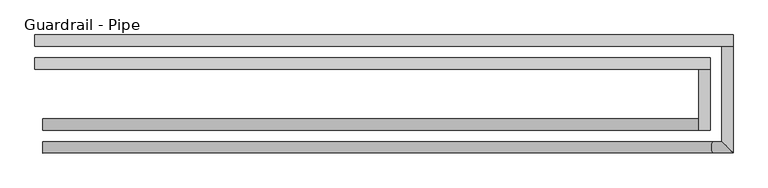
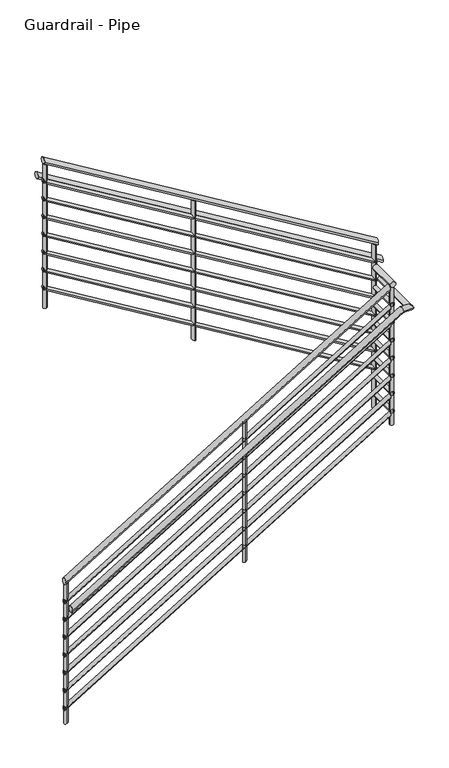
"""IFC4 building model written with IfcOpenShell, lengths in millimetres: railing geometry, Guardrail - Pipe."""

from ifc_helpers import new_model, si_unit, point, frame, frame_2d, origin, place, context, project, spatial, circle_curve, ellipse_curve, trimmed, segment, composite_curve, outline, extrude, source, transform, mapped, element, save
from ifc_brep_helpers import plane_surface, cylinder_surface, advanced_brep


def guardrail_pipe_78582fdc(model_context):
    return source(origin(), model_context, "Body", "SolidModel", [
        advanced_brep(
        [(-2909.3516552, 9300.527236, 1215.7820282), (-2909.3516552, 9338.627236, 1215.7820282), (-718.6016552, 9300.527236, 2543.5093009), (-718.6016552, 9338.627236, 2543.5093009)],
        [
            (0, 1, ellipse_curve(frame((-2909.3516552, 9319.577236, 1215.7820282), z_axis=(-1.0, 0.0, 0.0), x_axis=(0.0, 0.0, -1.0)), 22.2755476, 19.05)),
            (1, 0, ellipse_curve(frame((-2909.3516552, 9319.577236, 1215.7820282), z_axis=(-1.0, 0.0, 0.0), x_axis=(0.0, 0.0, -1.0)), 22.2755476, 19.05)),
            (2, 3, ellipse_curve(frame((-718.6016552, 9319.577236, 2543.5093009), z_axis=(1.0, 0.0, 0.0), x_axis=(0.0, 0.0, -1.0)), 22.2755476, 19.05)),
            (3, 2, ellipse_curve(frame((-718.6016552, 9319.577236, 2543.5093009), z_axis=(1.0, 0.0, 0.0), x_axis=(0.0, 0.0, -1.0)), 22.2755476, 19.05)),
            (0, 2),
            (3, 1),
        ],
        [
            plane_surface(frame((-2909.3516552, 9319.577236, 1238.0575758), z_axis=(-1.0, 0.0, 0.0), x_axis=(0.0, 1.0, 0.0))),
            plane_surface(frame((-718.6016552, 9319.577236, 2565.7848485), z_axis=(1.0, 0.0, 0.0), x_axis=(0.0, 1.0, 0.0))),
            cylinder_surface(frame((-2899.4780075, 9319.577236, 1221.7660571), z_axis=(-0.855197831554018, 0.0, -0.5183017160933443), x_axis=(0.0, 1.0, 0.0)), 19.05),
        ],
        [
            (0, [[1, 2]]),
            (1, [[3, 4]]),
            (2, [[-1, 5, -4, 6]]),
            (2, [[-2, -6, -3, -5]]),
        ],
    ),
        advanced_brep(
        [(-680.5016552, 9300.527236, 2571.75), (-718.6016552, 9300.527236, 2571.75), (-680.5016552, 9503.727236, 2571.75), (-718.6016552, 9503.727236, 2571.75)],
        [
            (0, 1, circle_curve(frame((-699.5516552, 9300.527236, 2571.75), z_axis=(0.0, -1.0, 0.0), x_axis=(-1.0, 0.0, 0.0)), 19.05)),
            (1, 0, circle_curve(frame((-699.5516552, 9300.527236, 2571.75), z_axis=(0.0, -1.0, 0.0), x_axis=(-1.0, 0.0, 0.0)), 19.05)),
            (2, 3, circle_curve(frame((-699.5516552, 9503.727236, 2571.75), z_axis=(0.0, 1.0, 0.0), x_axis=(-1.0, 0.0, 0.0)), 19.05)),
            (3, 2, circle_curve(frame((-699.5516552, 9503.727236, 2571.75), z_axis=(0.0, 1.0, 0.0), x_axis=(-1.0, 0.0, 0.0)), 19.05)),
            (0, 2),
            (3, 1),
        ],
        [
            plane_surface(frame((-699.5516552, 9300.527236, 2590.8), z_axis=(0.0, -1.0, 0.0), x_axis=(0.0, 0.0, 1.0))),
            plane_surface(frame((-699.5516552, 9503.727236, 2590.8), z_axis=(0.0, 1.0, 0.0), x_axis=(0.0, 0.0, 1.0))),
            cylinder_surface(frame((-699.5516552, 9300.527236, 2571.75), z_axis=(0.0, -1.0, 0.0), x_axis=(-1.0, 0.0, 0.0)), 19.05),
        ],
        [
            (0, [[1, 2]]),
            (1, [[3, 4]]),
            (2, [[-1, 5, -4, 6]]),
            (2, [[-2, -6, -3, -5]]),
        ],
    ),
        advanced_brep(
        [(-680.5016552, 9541.827236, 2739.7820282), (-680.5016552, 9503.727236, 2739.7820282), (-2934.7516552, 9541.827236, 4105.9941494), (-2934.7516552, 9503.727236, 4105.9941494)],
        [
            (0, 1, ellipse_curve(frame((-680.5016552, 9522.777236, 2739.7820282), z_axis=(1.0, 0.0, 0.0), x_axis=(0.0, 0.0, -1.0)), 22.2755476, 19.05)),
            (1, 0, ellipse_curve(frame((-680.5016552, 9522.777236, 2739.7820282), z_axis=(1.0, 0.0, 0.0), x_axis=(0.0, 0.0, -1.0)), 22.2755476, 19.05)),
            (2, 3, ellipse_curve(frame((-2934.7516552, 9522.777236, 4105.9941494), z_axis=(-1.0, 0.0, 0.0), x_axis=(0.0, 0.0, -1.0)), 22.2755476, 19.05)),
            (3, 2, ellipse_curve(frame((-2934.7516552, 9522.777236, 4105.9941494), z_axis=(-1.0, 0.0, 0.0), x_axis=(0.0, 0.0, -1.0)), 22.2755476, 19.05)),
            (0, 2),
            (3, 1),
        ],
        [
            plane_surface(frame((-680.5016552, 9522.777236, 2762.0575758), z_axis=(1.0, 0.0, 0.0), x_axis=(0.0, -1.0, 0.0))),
            plane_surface(frame((-2934.7516552, 9522.777236, 4128.269697), z_axis=(-1.0, 0.0, 0.0), x_axis=(0.0, -1.0, 0.0))),
            cylinder_surface(frame((-690.3753029, 9522.777236, 2745.7660571), z_axis=(0.8551978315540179, 0.0, -0.5183017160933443), x_axis=(0.0, -1.0, 0.0)), 19.05),
        ],
        [
            (0, [[1, 2]]),
            (1, [[3, 4]]),
            (2, [[-1, 5, -4, 6]]),
            (2, [[-2, -6, -3, -5]]),
        ],
    ),
        advanced_brep(
        [(-2909.3516552, 9306.877236, 1070.8072107), (-2909.3516552, 9332.277236, 1070.8072107), (-712.2516552, 9306.877236, 2402.3829683), (-712.2516552, 9332.277236, 2402.3829683)],
        [
            (0, 1, ellipse_curve(frame((-2909.3516552, 9319.577236, 1070.8072107), z_axis=(-1.0, 0.0, 0.0), x_axis=(0.0, 0.0, -1.0)), 14.8503651, 12.7)),
            (1, 0, ellipse_curve(frame((-2909.3516552, 9319.577236, 1070.8072107), z_axis=(-1.0, 0.0, 0.0), x_axis=(0.0, 0.0, -1.0)), 14.8503651, 12.7)),
            (2, 3, ellipse_curve(frame((-712.2516552, 9319.577236, 2402.3829683), z_axis=(1.0, 0.0, 0.0), x_axis=(0.0, 0.0, -1.0)), 14.8503651, 12.7)),
            (3, 2, ellipse_curve(frame((-712.2516552, 9319.577236, 2402.3829683), z_axis=(1.0, 0.0, 0.0), x_axis=(0.0, 0.0, -1.0)), 14.8503651, 12.7)),
            (0, 2),
            (3, 1),
        ],
        [
            plane_surface(frame((-2909.3516552, 9319.577236, 1085.6575758), z_axis=(-1.0, 0.0, 0.0), x_axis=(0.0, 1.0, 0.0))),
            plane_surface(frame((-712.2516552, 9319.577236, 2417.2333333), z_axis=(1.0, 0.0, 0.0), x_axis=(0.0, 1.0, 0.0))),
            cylinder_surface(frame((-2902.7692234, 9319.577236, 1074.7965633), z_axis=(-0.8551978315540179, 0.0, -0.5183017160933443), x_axis=(0.0, 1.0, 0.0)), 12.7),
        ],
        [
            (0, [[1, 2]]),
            (1, [[3, 4]]),
            (2, [[-1, 5, -4, 6]]),
            (2, [[-2, -6, -3, -5]]),
        ],
    ),
        advanced_brep(
        [(-686.8516552, 9306.877236, 2425.7), (-712.2516552, 9306.877236, 2425.7), (-686.8516552, 9510.077236, 2425.7), (-712.2516552, 9510.077236, 2425.7)],
        [
            (0, 1, circle_curve(frame((-699.5516552, 9306.877236, 2425.7), z_axis=(0.0, -1.0, 0.0), x_axis=(-1.0, 0.0, 0.0)), 12.7)),
            (1, 0, circle_curve(frame((-699.5516552, 9306.877236, 2425.7), z_axis=(0.0, -1.0, 0.0), x_axis=(-1.0, 0.0, 0.0)), 12.7)),
            (2, 3, circle_curve(frame((-699.5516552, 9510.077236, 2425.7), z_axis=(0.0, 1.0, 0.0), x_axis=(-1.0, 0.0, 0.0)), 12.7)),
            (3, 2, circle_curve(frame((-699.5516552, 9510.077236, 2425.7), z_axis=(0.0, 1.0, 0.0), x_axis=(-1.0, 0.0, 0.0)), 12.7)),
            (0, 2),
            (3, 1),
        ],
        [
            plane_surface(frame((-699.5516552, 9306.877236, 2438.4), z_axis=(0.0, -1.0, 0.0), x_axis=(0.0, 0.0, 1.0))),
            plane_surface(frame((-699.5516552, 9510.077236, 2438.4), z_axis=(0.0, 1.0, 0.0), x_axis=(0.0, 0.0, 1.0))),
            cylinder_surface(frame((-699.5516552, 9306.877236, 2425.7), z_axis=(0.0, -1.0, 0.0), x_axis=(-1.0, 0.0, 0.0)), 12.7),
        ],
        [
            (0, [[1, 2]]),
            (1, [[3, 4]]),
            (2, [[-1, 5, -4, 6]]),
            (2, [[-2, -6, -3, -5]]),
        ],
    ),
        advanced_brep(
        [(-686.8516552, 9535.477236, 2598.6556955), (-686.8516552, 9510.077236, 2598.6556955), (-2934.7516552, 9535.477236, 3961.0193319), (-2934.7516552, 9510.077236, 3961.0193319)],
        [
            (0, 1, ellipse_curve(frame((-686.8516552, 9522.777236, 2598.6556955), z_axis=(1.0, 0.0, 0.0), x_axis=(0.0, 0.0, -1.0)), 14.8503651, 12.7)),
            (1, 0, ellipse_curve(frame((-686.8516552, 9522.777236, 2598.6556955), z_axis=(1.0, 0.0, 0.0), x_axis=(0.0, 0.0, -1.0)), 14.8503651, 12.7)),
            (2, 3, ellipse_curve(frame((-2934.7516552, 9522.777236, 3961.0193319), z_axis=(-1.0, 0.0, 0.0), x_axis=(0.0, 0.0, -1.0)), 14.8503651, 12.7)),
            (3, 2, ellipse_curve(frame((-2934.7516552, 9522.777236, 3961.0193319), z_axis=(-1.0, 0.0, 0.0), x_axis=(0.0, 0.0, -1.0)), 14.8503651, 12.7)),
            (0, 2),
            (3, 1),
        ],
        [
            plane_surface(frame((-686.8516552, 9522.777236, 2613.5060606), z_axis=(1.0, 0.0, 0.0), x_axis=(0.0, -1.0, 0.0))),
            plane_surface(frame((-2934.7516552, 9522.777236, 3975.869697), z_axis=(-1.0, 0.0, 0.0), x_axis=(0.0, -1.0, 0.0))),
            cylinder_surface(frame((-693.434087, 9522.777236, 2602.6450481), z_axis=(0.8551978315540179, 0.0, -0.5183017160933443), x_axis=(0.0, -1.0, 0.0)), 12.7),
        ],
        [
            (0, [[1, 2]]),
            (1, [[3, 4]]),
            (2, [[-1, 5, -4, 6]]),
            (2, [[-2, -6, -3, -5]]),
        ],
    ),
        advanced_brep(
        [(-2909.3516552, 9224.327236, 1063.3820282), (-2909.3516552, 9262.427236, 1063.3820282), (-672.0045016, 9224.327236, 2419.35), (-672.0045016, 9262.427236, 2419.35), (-604.3016552, 9224.327236, 2419.35), (-642.4016552, 9262.427236, 2419.35), (-604.3016552, 9579.927236, 2419.35), (-642.4016552, 9579.927236, 2419.35)],
        [
            (0, 1, ellipse_curve(frame((-2909.3516552, 9243.377236, 1063.3820282), z_axis=(-1.0, 0.0, 0.0), x_axis=(0.0, 0.0, -1.0)), 22.2755476, 19.05)),
            (1, 0, ellipse_curve(frame((-2909.3516552, 9243.377236, 1063.3820282), z_axis=(-1.0, 0.0, 0.0), x_axis=(0.0, 0.0, -1.0)), 22.2755476, 19.05)),
            (0, 2),
            (2, 3, ellipse_curve(frame((-672.0045016, 9243.377236, 2419.35), z_axis=(-0.9631193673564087, 0.0, -0.2690744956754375), x_axis=(0.26907449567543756, 0.0, -0.9631193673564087)), 19.7794797, 19.05)),
            (3, 1),
            (3, 2, ellipse_curve(frame((-672.0045016, 9243.377236, 2419.35), z_axis=(-0.9631193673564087, 0.0, -0.2690744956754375), x_axis=(0.26907449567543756, 0.0, -0.9631193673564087)), 19.7794797, 19.05)),
            (2, 4),
            (4, 5, ellipse_curve(frame((-623.3516552, 9243.377236, 2419.35), z_axis=(-0.7071067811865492, -0.7071067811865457, 0.0), x_axis=(-0.7071067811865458, 0.7071067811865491, 0.0)), 26.9407684, 19.05)),
            (5, 3),
            (5, 4, ellipse_curve(frame((-623.3516552, 9243.377236, 2419.35), z_axis=(-0.7071067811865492, -0.7071067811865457, 0.0), x_axis=(-0.7071067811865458, 0.7071067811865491, 0.0)), 26.9407684, 19.05)),
            (6, 7, circle_curve(frame((-623.3516552, 9579.927236, 2419.35), z_axis=(0.0, 1.0, 0.0), x_axis=(-1.0, 0.0, 0.0)), 19.05)),
            (7, 6, circle_curve(frame((-623.3516552, 9579.927236, 2419.35), z_axis=(0.0, 1.0, 0.0), x_axis=(-1.0, 0.0, 0.0)), 19.05)),
            (4, 6),
            (7, 5),
        ],
        [
            plane_surface(frame((-2909.3516552, 9243.377236, 1085.6575758), z_axis=(-1.0, 0.0, 0.0), x_axis=(0.0, 1.0, 0.0))),
            cylinder_surface(frame((-2899.4780075, 9243.377236, 1069.3660571), z_axis=(-0.855197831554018, 0.0, -0.5183017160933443), x_axis=(0.0, 1.0, 0.0)), 19.05),
            cylinder_surface(frame((-677.3266552, 9243.377236, 2419.35), z_axis=(-1.0, 0.0, 0.0), x_axis=(0.0, 1.0, 0.0)), 19.05),
            plane_surface(frame((-623.3516552, 9579.927236, 2438.4), z_axis=(0.0, 1.0, 0.0), x_axis=(0.0, 0.0, 1.0))),
            cylinder_surface(frame((-623.3516552, 9243.377236, 2419.35), z_axis=(0.0, -1.0, 0.0), x_axis=(-1.0, 0.0, 0.0)), 19.05),
        ],
        [
            (0, [[1, 2]]),
            (1, [[-1, 3, 4, 5]]),
            (1, [[-2, -5, 6, -3]]),
            (2, [[-4, 7, 8, 9]]),
            (2, [[-6, -9, 10, -7]]),
            (3, [[11, 12]]),
            (4, [[-8, 13, -12, 14]]),
            (4, [[-10, -14, -11, -13]]),
        ],
    ),
        advanced_brep(
        [(-604.3016552, 9618.027236, 2541.20021), (-604.3016552, 9579.927236, 2541.20021), (-2934.7516552, 9618.027236, 3953.5941494), (-2934.7516552, 9579.927236, 3953.5941494)],
        [
            (0, 1, ellipse_curve(frame((-604.3016552, 9598.977236, 2541.20021), z_axis=(1.0, 0.0, 0.0), x_axis=(0.0, 0.0, -1.0)), 22.2755476, 19.05)),
            (1, 0, ellipse_curve(frame((-604.3016552, 9598.977236, 2541.20021), z_axis=(1.0, 0.0, 0.0), x_axis=(0.0, 0.0, -1.0)), 22.2755476, 19.05)),
            (2, 3, ellipse_curve(frame((-2934.7516552, 9598.977236, 3953.5941494), z_axis=(-1.0, 0.0, 0.0), x_axis=(0.0, 0.0, -1.0)), 22.2755476, 19.05)),
            (3, 2, ellipse_curve(frame((-2934.7516552, 9598.977236, 3953.5941494), z_axis=(-1.0, 0.0, 0.0), x_axis=(0.0, 0.0, -1.0)), 22.2755476, 19.05)),
            (0, 2),
            (3, 1),
        ],
        [
            plane_surface(frame((-604.3016552, 9598.977236, 2563.4757576), z_axis=(1.0, 0.0, 0.0), x_axis=(0.0, -1.0, 0.0))),
            plane_surface(frame((-2934.7516552, 9598.977236, 3975.869697), z_axis=(-1.0, 0.0, 0.0), x_axis=(0.0, -1.0, 0.0))),
            cylinder_surface(frame((-614.1753029, 9598.977236, 2547.1842389), z_axis=(0.855197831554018, 0.0, -0.5183017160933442), x_axis=(0.0, -1.0, 0.0)), 19.05),
        ],
        [
            (0, [[1, 2]]),
            (1, [[3, 4]]),
            (2, [[-1, 5, -4, 6]]),
            (2, [[-2, -6, -3, -5]]),
        ],
    ),
        advanced_brep(
        [(-2909.3516552, 9306.877236, 943.8072107), (-2909.3516552, 9332.277236, 943.8072107), (-712.2516552, 9306.877236, 2275.3829683), (-712.2516552, 9332.277236, 2275.3829683)],
        [
            (0, 1, ellipse_curve(frame((-2909.3516552, 9319.577236, 943.8072107), z_axis=(-1.0, 0.0, 0.0), x_axis=(0.0, 0.0, -1.0)), 14.8503651, 12.7)),
            (1, 0, ellipse_curve(frame((-2909.3516552, 9319.577236, 943.8072107), z_axis=(-1.0, 0.0, 0.0), x_axis=(0.0, 0.0, -1.0)), 14.8503651, 12.7)),
            (2, 3, ellipse_curve(frame((-712.2516552, 9319.577236, 2275.3829683), z_axis=(1.0, 0.0, 0.0), x_axis=(0.0, 0.0, -1.0)), 14.8503651, 12.7)),
            (3, 2, ellipse_curve(frame((-712.2516552, 9319.577236, 2275.3829683), z_axis=(1.0, 0.0, 0.0), x_axis=(0.0, 0.0, -1.0)), 14.8503651, 12.7)),
            (0, 2),
            (3, 1),
        ],
        [
            plane_surface(frame((-2909.3516552, 9319.577236, 958.6575758), z_axis=(-1.0, 0.0, 0.0), x_axis=(0.0, 1.0, 0.0))),
            plane_surface(frame((-712.2516552, 9319.577236, 2290.2333333), z_axis=(1.0, 0.0, 0.0), x_axis=(0.0, 1.0, 0.0))),
            cylinder_surface(frame((-2902.7692234, 9319.577236, 947.7965633), z_axis=(-0.8551978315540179, 0.0, -0.5183017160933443), x_axis=(0.0, 1.0, 0.0)), 12.7),
        ],
        [
            (0, [[1, 2]]),
            (1, [[3, 4]]),
            (2, [[-1, 5, -4, 6]]),
            (2, [[-2, -6, -3, -5]]),
        ],
    ),
        advanced_brep(
        [(-686.8516552, 9306.877236, 2298.7), (-712.2516552, 9306.877236, 2298.7), (-686.8516552, 9510.077236, 2298.7), (-712.2516552, 9510.077236, 2298.7)],
        [
            (0, 1, circle_curve(frame((-699.5516552, 9306.877236, 2298.7), z_axis=(0.0, -1.0, 0.0), x_axis=(-1.0, 0.0, 0.0)), 12.7)),
            (1, 0, circle_curve(frame((-699.5516552, 9306.877236, 2298.7), z_axis=(0.0, -1.0, 0.0), x_axis=(-1.0, 0.0, 0.0)), 12.7)),
            (2, 3, circle_curve(frame((-699.5516552, 9510.077236, 2298.7), z_axis=(0.0, 1.0, 0.0), x_axis=(-1.0, 0.0, 0.0)), 12.7)),
            (3, 2, circle_curve(frame((-699.5516552, 9510.077236, 2298.7), z_axis=(0.0, 1.0, 0.0), x_axis=(-1.0, 0.0, 0.0)), 12.7)),
            (0, 2),
            (3, 1),
        ],
        [
            plane_surface(frame((-699.5516552, 9306.877236, 2311.4), z_axis=(0.0, -1.0, 0.0), x_axis=(0.0, 0.0, 1.0))),
            plane_surface(frame((-699.5516552, 9510.077236, 2311.4), z_axis=(0.0, 1.0, 0.0), x_axis=(0.0, 0.0, 1.0))),
            cylinder_surface(frame((-699.5516552, 9306.877236, 2298.7), z_axis=(0.0, -1.0, 0.0), x_axis=(-1.0, 0.0, 0.0)), 12.7),
        ],
        [
            (0, [[1, 2]]),
            (1, [[3, 4]]),
            (2, [[-1, 5, -4, 6]]),
            (2, [[-2, -6, -3, -5]]),
        ],
    ),
        advanced_brep(
        [(-686.8516552, 9535.477236, 2471.6556955), (-686.8516552, 9510.077236, 2471.6556955), (-2934.7516552, 9535.477236, 3834.0193319), (-2934.7516552, 9510.077236, 3834.0193319)],
        [
            (0, 1, ellipse_curve(frame((-686.8516552, 9522.777236, 2471.6556955), z_axis=(1.0, 0.0, 0.0), x_axis=(0.0, 0.0, -1.0)), 14.8503651, 12.7)),
            (1, 0, ellipse_curve(frame((-686.8516552, 9522.777236, 2471.6556955), z_axis=(1.0, 0.0, 0.0), x_axis=(0.0, 0.0, -1.0)), 14.8503651, 12.7)),
            (2, 3, ellipse_curve(frame((-2934.7516552, 9522.777236, 3834.0193319), z_axis=(-1.0, 0.0, 0.0), x_axis=(0.0, 0.0, -1.0)), 14.8503651, 12.7)),
            (3, 2, ellipse_curve(frame((-2934.7516552, 9522.777236, 3834.0193319), z_axis=(-1.0, 0.0, 0.0), x_axis=(0.0, 0.0, -1.0)), 14.8503651, 12.7)),
            (0, 2),
            (3, 1),
        ],
        [
            plane_surface(frame((-686.8516552, 9522.777236, 2486.5060606), z_axis=(1.0, 0.0, 0.0), x_axis=(0.0, -1.0, 0.0))),
            plane_surface(frame((-2934.7516552, 9522.777236, 3848.869697), z_axis=(-1.0, 0.0, 0.0), x_axis=(0.0, -1.0, 0.0))),
            cylinder_surface(frame((-693.434087, 9522.777236, 2475.6450481), z_axis=(0.8551978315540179, 0.0, -0.5183017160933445), x_axis=(0.0, -1.0, 0.0)), 12.7),
        ],
        [
            (0, [[1, 2]]),
            (1, [[3, 4]]),
            (2, [[-1, 5, -4, 6]]),
            (2, [[-2, -6, -3, -5]]),
        ],
    ),
        advanced_brep(
        [(-2909.3516552, 9306.877236, 816.8072107), (-2909.3516552, 9332.277236, 816.8072107), (-712.2516552, 9306.877236, 2148.3829683), (-712.2516552, 9332.277236, 2148.3829683)],
        [
            (0, 1, ellipse_curve(frame((-2909.3516552, 9319.577236, 816.8072107), z_axis=(-1.0, 0.0, 0.0), x_axis=(0.0, 0.0, -1.0)), 14.8503651, 12.7)),
            (1, 0, ellipse_curve(frame((-2909.3516552, 9319.577236, 816.8072107), z_axis=(-1.0, 0.0, 0.0), x_axis=(0.0, 0.0, -1.0)), 14.8503651, 12.7)),
            (2, 3, ellipse_curve(frame((-712.2516552, 9319.577236, 2148.3829683), z_axis=(1.0, 0.0, 0.0), x_axis=(0.0, 0.0, -1.0)), 14.8503651, 12.7)),
            (3, 2, ellipse_curve(frame((-712.2516552, 9319.577236, 2148.3829683), z_axis=(1.0, 0.0, 0.0), x_axis=(0.0, 0.0, -1.0)), 14.8503651, 12.7)),
            (0, 2),
            (3, 1),
        ],
        [
            plane_surface(frame((-2909.3516552, 9319.577236, 831.6575758), z_axis=(-1.0, 0.0, 0.0), x_axis=(0.0, 1.0, 0.0))),
            plane_surface(frame((-712.2516552, 9319.577236, 2163.2333333), z_axis=(1.0, 0.0, 0.0), x_axis=(0.0, 1.0, 0.0))),
            cylinder_surface(frame((-2902.7692234, 9319.577236, 820.7965633), z_axis=(-0.8551978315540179, 0.0, -0.5183017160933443), x_axis=(0.0, 1.0, 0.0)), 12.7),
        ],
        [
            (0, [[1, 2]]),
            (1, [[3, 4]]),
            (2, [[-1, 5, -4, 6]]),
            (2, [[-2, -6, -3, -5]]),
        ],
    ),
        advanced_brep(
        [(-686.8516552, 9306.877236, 2171.7), (-712.2516552, 9306.877236, 2171.7), (-686.8516552, 9510.077236, 2171.7), (-712.2516552, 9510.077236, 2171.7)],
        [
            (0, 1, circle_curve(frame((-699.5516552, 9306.877236, 2171.7), z_axis=(0.0, -1.0, 0.0), x_axis=(-1.0, 0.0, 0.0)), 12.7)),
            (1, 0, circle_curve(frame((-699.5516552, 9306.877236, 2171.7), z_axis=(0.0, -1.0, 0.0), x_axis=(-1.0, 0.0, 0.0)), 12.7)),
            (2, 3, circle_curve(frame((-699.5516552, 9510.077236, 2171.7), z_axis=(0.0, 1.0, 0.0), x_axis=(-1.0, 0.0, 0.0)), 12.7)),
            (3, 2, circle_curve(frame((-699.5516552, 9510.077236, 2171.7), z_axis=(0.0, 1.0, 0.0), x_axis=(-1.0, 0.0, 0.0)), 12.7)),
            (0, 2),
            (3, 1),
        ],
        [
            plane_surface(frame((-699.5516552, 9306.877236, 2184.4), z_axis=(0.0, -1.0, 0.0), x_axis=(0.0, 0.0, 1.0))),
            plane_surface(frame((-699.5516552, 9510.077236, 2184.4), z_axis=(0.0, 1.0, 0.0), x_axis=(0.0, 0.0, 1.0))),
            cylinder_surface(frame((-699.5516552, 9306.877236, 2171.7), z_axis=(0.0, -1.0, 0.0), x_axis=(-1.0, 0.0, 0.0)), 12.7),
        ],
        [
            (0, [[1, 2]]),
            (1, [[3, 4]]),
            (2, [[-1, 5, -4, 6]]),
            (2, [[-2, -6, -3, -5]]),
        ],
    ),
        advanced_brep(
        [(-686.8516552, 9535.477236, 2344.6556955), (-686.8516552, 9510.077236, 2344.6556955), (-2934.7516552, 9535.477236, 3707.0193319), (-2934.7516552, 9510.077236, 3707.0193319)],
        [
            (0, 1, ellipse_curve(frame((-686.8516552, 9522.777236, 2344.6556955), z_axis=(1.0, 0.0, 0.0), x_axis=(0.0, 0.0, -1.0)), 14.8503651, 12.7)),
            (1, 0, ellipse_curve(frame((-686.8516552, 9522.777236, 2344.6556955), z_axis=(1.0, 0.0, 0.0), x_axis=(0.0, 0.0, -1.0)), 14.8503651, 12.7)),
            (2, 3, ellipse_curve(frame((-2934.7516552, 9522.777236, 3707.0193319), z_axis=(-1.0, 0.0, 0.0), x_axis=(0.0, 0.0, -1.0)), 14.8503651, 12.7)),
            (3, 2, ellipse_curve(frame((-2934.7516552, 9522.777236, 3707.0193319), z_axis=(-1.0, 0.0, 0.0), x_axis=(0.0, 0.0, -1.0)), 14.8503651, 12.7)),
            (0, 2),
            (3, 1),
        ],
        [
            plane_surface(frame((-686.8516552, 9522.777236, 2359.5060606), z_axis=(1.0, 0.0, 0.0), x_axis=(0.0, -1.0, 0.0))),
            plane_surface(frame((-2934.7516552, 9522.777236, 3721.869697), z_axis=(-1.0, 0.0, 0.0), x_axis=(0.0, -1.0, 0.0))),
            cylinder_surface(frame((-693.434087, 9522.777236, 2348.6450481), z_axis=(0.8551978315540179, 0.0, -0.5183017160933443), x_axis=(0.0, -1.0, 0.0)), 12.7),
        ],
        [
            (0, [[1, 2]]),
            (1, [[3, 4]]),
            (2, [[-1, 5, -4, 6]]),
            (2, [[-2, -6, -3, -5]]),
        ],
    ),
        advanced_brep(
        [(-2909.3516552, 9306.877236, 689.8072107), (-2909.3516552, 9332.277236, 689.8072107), (-712.2516552, 9306.877236, 2021.3829683), (-712.2516552, 9332.277236, 2021.3829683)],
        [
            (0, 1, ellipse_curve(frame((-2909.3516552, 9319.577236, 689.8072107), z_axis=(-1.0, 0.0, 0.0), x_axis=(0.0, 0.0, -1.0)), 14.8503651, 12.7)),
            (1, 0, ellipse_curve(frame((-2909.3516552, 9319.577236, 689.8072107), z_axis=(-1.0, 0.0, 0.0), x_axis=(0.0, 0.0, -1.0)), 14.8503651, 12.7)),
            (2, 3, ellipse_curve(frame((-712.2516552, 9319.577236, 2021.3829683), z_axis=(1.0, 0.0, 0.0), x_axis=(0.0, 0.0, -1.0)), 14.8503651, 12.7)),
            (3, 2, ellipse_curve(frame((-712.2516552, 9319.577236, 2021.3829683), z_axis=(1.0, 0.0, 0.0), x_axis=(0.0, 0.0, -1.0)), 14.8503651, 12.7)),
            (0, 2),
            (3, 1),
        ],
        [
            plane_surface(frame((-2909.3516552, 9319.577236, 704.6575758), z_axis=(-1.0, 0.0, 0.0), x_axis=(0.0, 1.0, 0.0))),
            plane_surface(frame((-712.2516552, 9319.577236, 2036.2333333), z_axis=(1.0, 0.0, 0.0), x_axis=(0.0, 1.0, 0.0))),
            cylinder_surface(frame((-2902.7692234, 9319.577236, 693.7965633), z_axis=(-0.8551978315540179, 0.0, -0.5183017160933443), x_axis=(0.0, 1.0, 0.0)), 12.7),
        ],
        [
            (0, [[1, 2]]),
            (1, [[3, 4]]),
            (2, [[-1, 5, -4, 6]]),
            (2, [[-2, -6, -3, -5]]),
        ],
    ),
        advanced_brep(
        [(-686.8516552, 9306.877236, 2044.7), (-712.2516552, 9306.877236, 2044.7), (-686.8516552, 9510.077236, 2044.7), (-712.2516552, 9510.077236, 2044.7)],
        [
            (0, 1, circle_curve(frame((-699.5516552, 9306.877236, 2044.7), z_axis=(0.0, -1.0, 0.0), x_axis=(-1.0, 0.0, 0.0)), 12.7)),
            (1, 0, circle_curve(frame((-699.5516552, 9306.877236, 2044.7), z_axis=(0.0, -1.0, 0.0), x_axis=(-1.0, 0.0, 0.0)), 12.7)),
            (2, 3, circle_curve(frame((-699.5516552, 9510.077236, 2044.7), z_axis=(0.0, 1.0, 0.0), x_axis=(-1.0, 0.0, 0.0)), 12.7)),
            (3, 2, circle_curve(frame((-699.5516552, 9510.077236, 2044.7), z_axis=(0.0, 1.0, 0.0), x_axis=(-1.0, 0.0, 0.0)), 12.7)),
            (0, 2),
            (3, 1),
        ],
        [
            plane_surface(frame((-699.5516552, 9306.877236, 2057.4), z_axis=(0.0, -1.0, 0.0), x_axis=(0.0, 0.0, 1.0))),
            plane_surface(frame((-699.5516552, 9510.077236, 2057.4), z_axis=(0.0, 1.0, 0.0), x_axis=(0.0, 0.0, 1.0))),
            cylinder_surface(frame((-699.5516552, 9306.877236, 2044.7), z_axis=(0.0, -1.0, 0.0), x_axis=(-1.0, 0.0, 0.0)), 12.7),
        ],
        [
            (0, [[1, 2]]),
            (1, [[3, 4]]),
            (2, [[-1, 5, -4, 6]]),
            (2, [[-2, -6, -3, -5]]),
        ],
    ),
        advanced_brep(
        [(-686.8516552, 9535.477236, 2217.6556955), (-686.8516552, 9510.077236, 2217.6556955), (-2934.7516552, 9535.477236, 3580.0193319), (-2934.7516552, 9510.077236, 3580.0193319)],
        [
            (0, 1, ellipse_curve(frame((-686.8516552, 9522.777236, 2217.6556955), z_axis=(1.0, 0.0, 0.0), x_axis=(0.0, 0.0, -1.0)), 14.8503651, 12.7)),
            (1, 0, ellipse_curve(frame((-686.8516552, 9522.777236, 2217.6556955), z_axis=(1.0, 0.0, 0.0), x_axis=(0.0, 0.0, -1.0)), 14.8503651, 12.7)),
            (2, 3, ellipse_curve(frame((-2934.7516552, 9522.777236, 3580.0193319), z_axis=(-1.0, 0.0, 0.0), x_axis=(0.0, 0.0, -1.0)), 14.8503651, 12.7)),
            (3, 2, ellipse_curve(frame((-2934.7516552, 9522.777236, 3580.0193319), z_axis=(-1.0, 0.0, 0.0), x_axis=(0.0, 0.0, -1.0)), 14.8503651, 12.7)),
            (0, 2),
            (3, 1),
        ],
        [
            plane_surface(frame((-686.8516552, 9522.777236, 2232.5060606), z_axis=(1.0, 0.0, 0.0), x_axis=(0.0, -1.0, 0.0))),
            plane_surface(frame((-2934.7516552, 9522.777236, 3594.869697), z_axis=(-1.0, 0.0, 0.0), x_axis=(0.0, -1.0, 0.0))),
            cylinder_surface(frame((-693.434087, 9522.777236, 2221.6450481), z_axis=(0.8551978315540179, 0.0, -0.5183017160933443), x_axis=(0.0, -1.0, 0.0)), 12.7),
        ],
        [
            (0, [[1, 2]]),
            (1, [[3, 4]]),
            (2, [[-1, 5, -4, 6]]),
            (2, [[-2, -6, -3, -5]]),
        ],
    ),
        advanced_brep(
        [(-2909.3516552, 9306.877236, 562.8072107), (-2909.3516552, 9332.277236, 562.8072107), (-712.2516552, 9306.877236, 1894.3829683), (-712.2516552, 9332.277236, 1894.3829683)],
        [
            (0, 1, ellipse_curve(frame((-2909.3516552, 9319.577236, 562.8072107), z_axis=(-1.0, 0.0, 0.0), x_axis=(0.0, 0.0, -1.0)), 14.8503651, 12.7)),
            (1, 0, ellipse_curve(frame((-2909.3516552, 9319.577236, 562.8072107), z_axis=(-1.0, 0.0, 0.0), x_axis=(0.0, 0.0, -1.0)), 14.8503651, 12.7)),
            (2, 3, ellipse_curve(frame((-712.2516552, 9319.577236, 1894.3829683), z_axis=(1.0, 0.0, 0.0), x_axis=(0.0, 0.0, -1.0)), 14.8503651, 12.7)),
            (3, 2, ellipse_curve(frame((-712.2516552, 9319.577236, 1894.3829683), z_axis=(1.0, 0.0, 0.0), x_axis=(0.0, 0.0, -1.0)), 14.8503651, 12.7)),
            (0, 2),
            (3, 1),
        ],
        [
            plane_surface(frame((-2909.3516552, 9319.577236, 577.6575758), z_axis=(-1.0, 0.0, 0.0), x_axis=(0.0, 1.0, 0.0))),
            plane_surface(frame((-712.2516552, 9319.577236, 1909.2333333), z_axis=(1.0, 0.0, 0.0), x_axis=(0.0, 1.0, 0.0))),
            cylinder_surface(frame((-2902.7692234, 9319.577236, 566.7965633), z_axis=(-0.855197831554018, 0.0, -0.5183017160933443), x_axis=(0.0, 1.0, 0.0)), 12.7),
        ],
        [
            (0, [[1, 2]]),
            (1, [[3, 4]]),
            (2, [[-1, 5, -4, 6]]),
            (2, [[-2, -6, -3, -5]]),
        ],
    ),
        advanced_brep(
        [(-686.8516552, 9306.877236, 1917.7), (-712.2516552, 9306.877236, 1917.7), (-686.8516552, 9510.077236, 1917.7), (-712.2516552, 9510.077236, 1917.7)],
        [
            (0, 1, circle_curve(frame((-699.5516552, 9306.877236, 1917.7), z_axis=(0.0, -1.0, 0.0), x_axis=(-1.0, 0.0, 0.0)), 12.7)),
            (1, 0, circle_curve(frame((-699.5516552, 9306.877236, 1917.7), z_axis=(0.0, -1.0, 0.0), x_axis=(-1.0, 0.0, 0.0)), 12.7)),
            (2, 3, circle_curve(frame((-699.5516552, 9510.077236, 1917.7), z_axis=(0.0, 1.0, 0.0), x_axis=(-1.0, 0.0, 0.0)), 12.7)),
            (3, 2, circle_curve(frame((-699.5516552, 9510.077236, 1917.7), z_axis=(0.0, 1.0, 0.0), x_axis=(-1.0, 0.0, 0.0)), 12.7)),
            (0, 2),
            (3, 1),
        ],
        [
            plane_surface(frame((-699.5516552, 9306.877236, 1930.4), z_axis=(0.0, -1.0, 0.0), x_axis=(0.0, 0.0, 1.0))),
            plane_surface(frame((-699.5516552, 9510.077236, 1930.4), z_axis=(0.0, 1.0, 0.0), x_axis=(0.0, 0.0, 1.0))),
            cylinder_surface(frame((-699.5516552, 9306.877236, 1917.7), z_axis=(0.0, -1.0, 0.0), x_axis=(-1.0, 0.0, 0.0)), 12.7),
        ],
        [
            (0, [[1, 2]]),
            (1, [[3, 4]]),
            (2, [[-1, 5, -4, 6]]),
            (2, [[-2, -6, -3, -5]]),
        ],
    ),
        advanced_brep(
        [(-686.8516552, 9535.477236, 2090.6556955), (-686.8516552, 9510.077236, 2090.6556955), (-2934.7516552, 9535.477236, 3453.0193319), (-2934.7516552, 9510.077236, 3453.0193319)],
        [
            (0, 1, ellipse_curve(frame((-686.8516552, 9522.777236, 2090.6556955), z_axis=(1.0, 0.0, 0.0), x_axis=(0.0, 0.0, -1.0)), 14.8503651, 12.7)),
            (1, 0, ellipse_curve(frame((-686.8516552, 9522.777236, 2090.6556955), z_axis=(1.0, 0.0, 0.0), x_axis=(0.0, 0.0, -1.0)), 14.8503651, 12.7)),
            (2, 3, ellipse_curve(frame((-2934.7516552, 9522.777236, 3453.0193319), z_axis=(-1.0, 0.0, 0.0), x_axis=(0.0, 0.0, -1.0)), 14.8503651, 12.7)),
            (3, 2, ellipse_curve(frame((-2934.7516552, 9522.777236, 3453.0193319), z_axis=(-1.0, 0.0, 0.0), x_axis=(0.0, 0.0, -1.0)), 14.8503651, 12.7)),
            (0, 2),
            (3, 1),
        ],
        [
            plane_surface(frame((-686.8516552, 9522.777236, 2105.5060606), z_axis=(1.0, 0.0, 0.0), x_axis=(0.0, -1.0, 0.0))),
            plane_surface(frame((-2934.7516552, 9522.777236, 3467.869697), z_axis=(-1.0, 0.0, 0.0), x_axis=(0.0, -1.0, 0.0))),
            cylinder_surface(frame((-693.434087, 9522.777236, 2094.6450481), z_axis=(0.8551978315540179, 0.0, -0.5183017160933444), x_axis=(0.0, -1.0, 0.0)), 12.7),
        ],
        [
            (0, [[1, 2]]),
            (1, [[3, 4]]),
            (2, [[-1, 5, -4, 6]]),
            (2, [[-2, -6, -3, -5]]),
        ],
    ),
        advanced_brep(
        [(-2909.3516552, 9306.877236, 435.8072107), (-2909.3516552, 9332.277236, 435.8072107), (-712.2516552, 9306.877236, 1767.3829683), (-712.2516552, 9332.277236, 1767.3829683)],
        [
            (0, 1, ellipse_curve(frame((-2909.3516552, 9319.577236, 435.8072107), z_axis=(-1.0, 0.0, 0.0), x_axis=(0.0, 0.0, -1.0)), 14.8503651, 12.7)),
            (1, 0, ellipse_curve(frame((-2909.3516552, 9319.577236, 435.8072107), z_axis=(-1.0, 0.0, 0.0), x_axis=(0.0, 0.0, -1.0)), 14.8503651, 12.7)),
            (2, 3, ellipse_curve(frame((-712.2516552, 9319.577236, 1767.3829683), z_axis=(1.0, 0.0, 0.0), x_axis=(0.0, 0.0, -1.0)), 14.8503651, 12.7)),
            (3, 2, ellipse_curve(frame((-712.2516552, 9319.577236, 1767.3829683), z_axis=(1.0, 0.0, 0.0), x_axis=(0.0, 0.0, -1.0)), 14.8503651, 12.7)),
            (0, 2),
            (3, 1),
        ],
        [
            plane_surface(frame((-2909.3516552, 9319.577236, 450.6575758), z_axis=(-1.0, 0.0, 0.0), x_axis=(0.0, 1.0, 0.0))),
            plane_surface(frame((-712.2516552, 9319.577236, 1782.2333333), z_axis=(1.0, 0.0, 0.0), x_axis=(0.0, 1.0, 0.0))),
            cylinder_surface(frame((-2902.7692234, 9319.577236, 439.7965633), z_axis=(-0.8551978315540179, 0.0, -0.5183017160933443), x_axis=(0.0, 1.0, 0.0)), 12.7),
        ],
        [
            (0, [[1, 2]]),
            (1, [[3, 4]]),
            (2, [[-1, 5, -4, 6]]),
            (2, [[-2, -6, -3, -5]]),
        ],
    ),
        advanced_brep(
        [(-686.8516552, 9306.877236, 1790.7), (-712.2516552, 9306.877236, 1790.7), (-686.8516552, 9510.077236, 1790.7), (-712.2516552, 9510.077236, 1790.7)],
        [
            (0, 1, circle_curve(frame((-699.5516552, 9306.877236, 1790.7), z_axis=(0.0, -1.0, 0.0), x_axis=(-1.0, 0.0, 0.0)), 12.7)),
            (1, 0, circle_curve(frame((-699.5516552, 9306.877236, 1790.7), z_axis=(0.0, -1.0, 0.0), x_axis=(-1.0, 0.0, 0.0)), 12.7)),
            (2, 3, circle_curve(frame((-699.5516552, 9510.077236, 1790.7), z_axis=(0.0, 1.0, 0.0), x_axis=(-1.0, 0.0, 0.0)), 12.7)),
            (3, 2, circle_curve(frame((-699.5516552, 9510.077236, 1790.7), z_axis=(0.0, 1.0, 0.0), x_axis=(-1.0, 0.0, 0.0)), 12.7)),
            (0, 2),
            (3, 1),
        ],
        [
            plane_surface(frame((-699.5516552, 9306.877236, 1803.4), z_axis=(0.0, -1.0, 0.0), x_axis=(0.0, 0.0, 1.0))),
            plane_surface(frame((-699.5516552, 9510.077236, 1803.4), z_axis=(0.0, 1.0, 0.0), x_axis=(0.0, 0.0, 1.0))),
            cylinder_surface(frame((-699.5516552, 9306.877236, 1790.7), z_axis=(0.0, -1.0, 0.0), x_axis=(-1.0, 0.0, 0.0)), 12.7),
        ],
        [
            (0, [[1, 2]]),
            (1, [[3, 4]]),
            (2, [[-1, 5, -4, 6]]),
            (2, [[-2, -6, -3, -5]]),
        ],
    ),
        advanced_brep(
        [(-686.8516552, 9535.477236, 1963.6556955), (-686.8516552, 9510.077236, 1963.6556955), (-2934.7516552, 9535.477236, 3326.0193319), (-2934.7516552, 9510.077236, 3326.0193319)],
        [
            (0, 1, ellipse_curve(frame((-686.8516552, 9522.777236, 1963.6556955), z_axis=(1.0, 0.0, 0.0), x_axis=(0.0, 0.0, -1.0)), 14.8503651, 12.7)),
            (1, 0, ellipse_curve(frame((-686.8516552, 9522.777236, 1963.6556955), z_axis=(1.0, 0.0, 0.0), x_axis=(0.0, 0.0, -1.0)), 14.8503651, 12.7)),
            (2, 3, ellipse_curve(frame((-2934.7516552, 9522.777236, 3326.0193319), z_axis=(-1.0, 0.0, 0.0), x_axis=(0.0, 0.0, -1.0)), 14.8503651, 12.7)),
            (3, 2, ellipse_curve(frame((-2934.7516552, 9522.777236, 3326.0193319), z_axis=(-1.0, 0.0, 0.0), x_axis=(0.0, 0.0, -1.0)), 14.8503651, 12.7)),
            (0, 2),
            (3, 1),
        ],
        [
            plane_surface(frame((-686.8516552, 9522.777236, 1978.5060606), z_axis=(1.0, 0.0, 0.0), x_axis=(0.0, -1.0, 0.0))),
            plane_surface(frame((-2934.7516552, 9522.777236, 3340.869697), z_axis=(-1.0, 0.0, 0.0), x_axis=(0.0, -1.0, 0.0))),
            cylinder_surface(frame((-693.434087, 9522.777236, 1967.6450481), z_axis=(0.855197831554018, 0.0, -0.5183017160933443), x_axis=(0.0, -1.0, 0.0)), 12.7),
        ],
        [
            (0, [[1, 2]]),
            (1, [[3, 4]]),
            (2, [[-1, 5, -4, 6]]),
            (2, [[-2, -6, -3, -5]]),
        ],
    ),
        advanced_brep(
        [(-2909.3516552, 9306.877236, 308.8072107), (-2909.3516552, 9332.277236, 308.8072107), (-712.2516552, 9306.877236, 1640.3829683), (-712.2516552, 9332.277236, 1640.3829683)],
        [
            (0, 1, ellipse_curve(frame((-2909.3516552, 9319.577236, 308.8072107), z_axis=(-1.0, 0.0, 0.0), x_axis=(0.0, 0.0, -1.0)), 14.8503651, 12.7)),
            (1, 0, ellipse_curve(frame((-2909.3516552, 9319.577236, 308.8072107), z_axis=(-1.0, 0.0, 0.0), x_axis=(0.0, 0.0, -1.0)), 14.8503651, 12.7)),
            (2, 3, ellipse_curve(frame((-712.2516552, 9319.577236, 1640.3829683), z_axis=(1.0, 0.0, 0.0), x_axis=(0.0, 0.0, -1.0)), 14.8503651, 12.7)),
            (3, 2, ellipse_curve(frame((-712.2516552, 9319.577236, 1640.3829683), z_axis=(1.0, 0.0, 0.0), x_axis=(0.0, 0.0, -1.0)), 14.8503651, 12.7)),
            (0, 2),
            (3, 1),
        ],
        [
            plane_surface(frame((-2909.3516552, 9319.577236, 323.6575758), z_axis=(-1.0, 0.0, 0.0), x_axis=(0.0, 1.0, 0.0))),
            plane_surface(frame((-712.2516552, 9319.577236, 1655.2333333), z_axis=(1.0, 0.0, 0.0), x_axis=(0.0, 1.0, 0.0))),
            cylinder_surface(frame((-2902.7692234, 9319.577236, 312.7965633), z_axis=(-0.8551978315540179, 0.0, -0.5183017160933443), x_axis=(0.0, 1.0, 0.0)), 12.7),
        ],
        [
            (0, [[1, 2]]),
            (1, [[3, 4]]),
            (2, [[-1, 5, -4, 6]]),
            (2, [[-2, -6, -3, -5]]),
        ],
    ),
        advanced_brep(
        [(-686.8516552, 9306.877236, 1663.7), (-712.2516552, 9306.877236, 1663.7), (-686.8516552, 9510.077236, 1663.7), (-712.2516552, 9510.077236, 1663.7)],
        [
            (0, 1, circle_curve(frame((-699.5516552, 9306.877236, 1663.7), z_axis=(0.0, -1.0, 0.0), x_axis=(-1.0, 0.0, 0.0)), 12.7)),
            (1, 0, circle_curve(frame((-699.5516552, 9306.877236, 1663.7), z_axis=(0.0, -1.0, 0.0), x_axis=(-1.0, 0.0, 0.0)), 12.7)),
            (2, 3, circle_curve(frame((-699.5516552, 9510.077236, 1663.7), z_axis=(0.0, 1.0, 0.0), x_axis=(-1.0, 0.0, 0.0)), 12.7)),
            (3, 2, circle_curve(frame((-699.5516552, 9510.077236, 1663.7), z_axis=(0.0, 1.0, 0.0), x_axis=(-1.0, 0.0, 0.0)), 12.7)),
            (0, 2),
            (3, 1),
        ],
        [
            plane_surface(frame((-699.5516552, 9306.877236, 1676.4), z_axis=(0.0, -1.0, 0.0), x_axis=(0.0, 0.0, 1.0))),
            plane_surface(frame((-699.5516552, 9510.077236, 1676.4), z_axis=(0.0, 1.0, 0.0), x_axis=(0.0, 0.0, 1.0))),
            cylinder_surface(frame((-699.5516552, 9306.877236, 1663.7), z_axis=(0.0, -1.0, 0.0), x_axis=(-1.0, 0.0, 0.0)), 12.7),
        ],
        [
            (0, [[1, 2]]),
            (1, [[3, 4]]),
            (2, [[-1, 5, -4, 6]]),
            (2, [[-2, -6, -3, -5]]),
        ],
    ),
        advanced_brep(
        [(-686.8516552, 9535.477236, 1836.6556955), (-686.8516552, 9510.077236, 1836.6556955), (-2934.7516552, 9535.477236, 3199.0193319), (-2934.7516552, 9510.077236, 3199.0193319)],
        [
            (0, 1, ellipse_curve(frame((-686.8516552, 9522.777236, 1836.6556955), z_axis=(1.0, 0.0, 0.0), x_axis=(0.0, 0.0, -1.0)), 14.8503651, 12.7)),
            (1, 0, ellipse_curve(frame((-686.8516552, 9522.777236, 1836.6556955), z_axis=(1.0, 0.0, 0.0), x_axis=(0.0, 0.0, -1.0)), 14.8503651, 12.7)),
            (2, 3, ellipse_curve(frame((-2934.7516552, 9522.777236, 3199.0193319), z_axis=(-1.0, 0.0, 0.0), x_axis=(0.0, 0.0, -1.0)), 14.8503651, 12.7)),
            (3, 2, ellipse_curve(frame((-2934.7516552, 9522.777236, 3199.0193319), z_axis=(-1.0, 0.0, 0.0), x_axis=(0.0, 0.0, -1.0)), 14.8503651, 12.7)),
            (0, 2),
            (3, 1),
        ],
        [
            plane_surface(frame((-686.8516552, 9522.777236, 1851.5060606), z_axis=(1.0, 0.0, 0.0), x_axis=(0.0, -1.0, 0.0))),
            plane_surface(frame((-2934.7516552, 9522.777236, 3213.869697), z_axis=(-1.0, 0.0, 0.0), x_axis=(0.0, -1.0, 0.0))),
            cylinder_surface(frame((-693.434087, 9522.777236, 1840.6450481), z_axis=(0.8551978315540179, 0.0, -0.5183017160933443), x_axis=(0.0, -1.0, 0.0)), 12.7),
        ],
        [
            (0, [[1, 2]]),
            (1, [[3, 4]]),
            (2, [[-1, 5, -4, 6]]),
            (2, [[-2, -6, -3, -5]]),
        ],
    ),
        advanced_brep(
        [(-1918.7516552, 9510.077236, 3467.961026), (-1918.7516552, 9535.477236, 3467.961026), (-1918.7516552, 9535.477236, 2472.4095541), (-1918.7516552, 9510.077236, 2472.4095541)],
        [
            (0, 1, ellipse_curve(frame((-1918.7516552, 9522.777236, 3467.961026), z_axis=(-0.5183017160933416, 0.0, -0.8551978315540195), x_axis=(-0.8551978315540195, 0.0, 0.5183017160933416)), 14.8503651, 12.7)),
            (1, 2),
            (2, 3, ellipse_curve(frame((-1918.7516552, 9522.777236, 2472.4095541), z_axis=(0.5183017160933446, 0.0, 0.8551978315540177), x_axis=(-0.855197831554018, 0.0, 0.5183017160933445)), 14.8503651, 12.7)),
            (3, 0),
            (3, 2, ellipse_curve(frame((-1918.7516552, 9522.777236, 2472.4095541), z_axis=(0.5183017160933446, 0.0, 0.8551978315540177), x_axis=(-0.855197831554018, 0.0, 0.5183017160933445)), 14.8503651, 12.7)),
            (1, 0, ellipse_curve(frame((-1918.7516552, 9522.777236, 3467.961026), z_axis=(-0.5183017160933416, 0.0, -0.8551978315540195), x_axis=(-0.8551978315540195, 0.0, 0.5183017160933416)), 14.8503651, 12.7)),
        ],
        [
            cylinder_surface(frame((-1918.7516552, 9522.777236, 2243.8095541), z_axis=(0.0, 0.0, 1.0), x_axis=(0.0, 1.0, 0.0)), 12.7),
            plane_surface(frame((-1944.1516552, 9548.177236, 3483.3549654), z_axis=(0.5183017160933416, 0.0, 0.8551978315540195), x_axis=(0.0, -1.0, 0.0))),
            plane_surface(frame((-1893.3516552, 9548.177236, 2457.0156147), z_axis=(-0.5183017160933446, 0.0, -0.8551978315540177), x_axis=(0.0, -1.0, 0.0))),
        ],
        [
            (0, [[1, 2, 3, 4]]),
            (0, [[5, -2, 6, -4]]),
            (1, [[-6, -1]]),
            (2, [[-5, -3]]),
        ],
    ),
        advanced_brep(
        [(-1690.1516552, 9332.277236, 1932.4155715), (-1690.1516552, 9306.877236, 1932.4155715), (-1690.1516552, 9306.877236, 936.8640995), (-1690.1516552, 9332.277236, 936.8640995)],
        [
            (0, 1, ellipse_curve(frame((-1690.1516552, 9319.577236, 1932.4155715), z_axis=(0.5183017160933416, 0.0, -0.8551978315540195), x_axis=(0.8551978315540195, 0.0, 0.5183017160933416)), 14.8503651, 12.7)),
            (1, 2),
            (2, 3, ellipse_curve(frame((-1690.1516552, 9319.577236, 936.8640995), z_axis=(-0.5183017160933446, 0.0, 0.8551978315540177), x_axis=(0.855197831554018, 0.0, 0.5183017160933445)), 14.8503651, 12.7)),
            (3, 0),
            (3, 2, ellipse_curve(frame((-1690.1516552, 9319.577236, 936.8640995), z_axis=(-0.5183017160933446, 0.0, 0.8551978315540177), x_axis=(0.855197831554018, 0.0, 0.5183017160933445)), 14.8503651, 12.7)),
            (1, 0, ellipse_curve(frame((-1690.1516552, 9319.577236, 1932.4155715), z_axis=(0.5183017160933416, 0.0, -0.8551978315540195), x_axis=(0.8551978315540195, 0.0, 0.5183017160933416)), 14.8503651, 12.7)),
        ],
        [
            cylinder_surface(frame((-1690.1516552, 9319.577236, 708.2640995), z_axis=(0.0, 0.0, 1.0), x_axis=(0.0, -1.0, 0.0)), 12.7),
            plane_surface(frame((-1664.7516552, 9294.177236, 1947.8095109), z_axis=(-0.5183017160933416, 0.0, 0.8551978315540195), x_axis=(0.0, 1.0, 0.0))),
            plane_surface(frame((-1715.5516552, 9294.177236, 921.4701601), z_axis=(0.5183017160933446, 0.0, -0.8551978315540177), x_axis=(0.0, 1.0, 0.0))),
        ],
        [
            (0, [[1, 2, 3, 4]]),
            (0, [[5, -2, 6, -4]]),
            (1, [[-6, -1]]),
            (2, [[-5, -3]]),
        ],
    ),
        advanced_brep(
        [(-699.5516552, 9510.077236, 2729.0519351), (-699.5516552, 9535.477236, 2729.0519351), (-699.5516552, 9535.477236, 1565.275), (-699.5516552, 9510.077236, 1565.275)],
        [
            (0, 1, ellipse_curve(frame((-699.5516552, 9522.777236, 2729.0519351), z_axis=(-0.5183017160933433, 0.0, -0.8551978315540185), x_axis=(-0.8551978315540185, 0.0, 0.5183017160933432)), 14.8503651, 12.7)),
            (1, 2),
            (2, 3, circle_curve(frame((-699.5516552, 9522.777236, 1565.275), z_axis=(0.0, 0.0, 1.0), x_axis=(0.0, 1.0, 0.0)), 12.7)),
            (3, 0),
            (3, 2, circle_curve(frame((-699.5516552, 9522.777236, 1565.275), z_axis=(0.0, 0.0, 1.0), x_axis=(0.0, 1.0, 0.0)), 12.7)),
            (1, 0, ellipse_curve(frame((-699.5516552, 9522.777236, 2729.0519351), z_axis=(-0.5183017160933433, 0.0, -0.8551978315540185), x_axis=(-0.8551978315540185, 0.0, 0.5183017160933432)), 14.8503651, 12.7)),
        ],
        [
            cylinder_surface(frame((-699.5516552, 9522.777236, 1336.675), z_axis=(0.0, 0.0, 1.0), x_axis=(0.0, 1.0, 0.0)), 12.7),
            plane_surface(frame((-724.9516552, 9548.177236, 2744.4458745), z_axis=(0.5183017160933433, 0.0, 0.8551978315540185), x_axis=(0.0, -1.0, 0.0))),
            plane_surface(frame((-674.1516552, 9548.177236, 1565.275), z_axis=(0.0, 0.0, -1.0), x_axis=(0.0, -1.0, 0.0))),
        ],
        [
            (0, [[1, 2, 3, 4]]),
            (0, [[5, -2, 6, -4]]),
            (1, [[-6, -1]]),
            (2, [[-5, -3]]),
        ],
    ),
        extrude(outline(composite_curve([segment(trimmed(circle_curve(frame_2d((-699.5516552, 9319.577236)), 12.7), [point((-686.8516552, 9319.577236))], [point((-712.2516552, 9319.577236))], False, "CARTESIAN"), True, "CONTINUOUS"), segment(trimmed(circle_curve(frame_2d((-699.5516552, 9319.577236)), 12.7), [point((-712.2516552, 9319.577236))], [point((-686.8516552, 9319.577236))], False, "CARTESIAN"), True, "CONTINUOUS")], self_intersect=False)), frame((0.0, 0.0, 1565.275), z_axis=(0.0, 0.0, 1.0), x_axis=(1.0, 0.0, 0.0)), (0.0, 0.0, 1.0), 987.425),
        advanced_brep(
        [(-2922.0516552, 9510.077236, 4076.0216321), (-2922.0516552, 9535.477236, 4076.0216321), (-2922.0516552, 9535.477236, 3053.7727273), (-2922.0516552, 9510.077236, 3053.7727273)],
        [
            (0, 1, ellipse_curve(frame((-2922.0516552, 9522.777236, 4076.0216321), z_axis=(-0.5183017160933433, 0.0, -0.8551978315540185), x_axis=(-0.8551978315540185, 0.0, 0.5183017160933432)), 14.8503651, 12.7)),
            (1, 2),
            (2, 3, circle_curve(frame((-2922.0516552, 9522.777236, 3053.7727273), z_axis=(0.0, 0.0, 1.0), x_axis=(0.0, 1.0, 0.0)), 12.7)),
            (3, 0),
            (3, 2, circle_curve(frame((-2922.0516552, 9522.777236, 3053.7727273), z_axis=(0.0, 0.0, 1.0), x_axis=(0.0, 1.0, 0.0)), 12.7)),
            (1, 0, ellipse_curve(frame((-2922.0516552, 9522.777236, 4076.0216321), z_axis=(-0.5183017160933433, 0.0, -0.8551978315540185), x_axis=(-0.8551978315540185, 0.0, 0.5183017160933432)), 14.8503651, 12.7)),
        ],
        [
            cylinder_surface(frame((-2922.0516552, 9522.777236, 2825.1727273), z_axis=(0.0, 0.0, 1.0), x_axis=(0.0, 1.0, 0.0)), 12.7),
            plane_surface(frame((-2947.4516552, 9548.177236, 4091.4155715), z_axis=(0.5183017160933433, 0.0, 0.8551978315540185), x_axis=(0.0, -1.0, 0.0))),
            plane_surface(frame((-2896.6516552, 9548.177236, 3053.7727273), z_axis=(0.0, 0.0, -1.0), x_axis=(0.0, -1.0, 0.0))),
        ],
        [
            (0, [[1, 2, 3, 4]]),
            (0, [[5, -2, 6, -4]]),
            (1, [[-6, -1]]),
            (2, [[-5, -3]]),
        ],
    ),
        advanced_brep(
        [(-2896.6516552, 9332.277236, 1201.2034503), (-2896.6516552, 9306.877236, 1201.2034503), (-2896.6516552, 9306.877236, 205.6519783), (-2896.6516552, 9332.277236, 205.6519783)],
        [
            (0, 1, ellipse_curve(frame((-2896.6516552, 9319.577236, 1201.2034503), z_axis=(0.5183017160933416, 0.0, -0.8551978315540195), x_axis=(0.8551978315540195, 0.0, 0.5183017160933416)), 14.8503651, 12.7)),
            (1, 2),
            (2, 3, ellipse_curve(frame((-2896.6516552, 9319.577236, 205.6519783), z_axis=(-0.5183017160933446, 0.0, 0.8551978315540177), x_axis=(0.855197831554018, 0.0, 0.5183017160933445)), 14.8503651, 12.7)),
            (3, 0),
            (3, 2, ellipse_curve(frame((-2896.6516552, 9319.577236, 205.6519783), z_axis=(-0.5183017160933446, 0.0, 0.8551978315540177), x_axis=(0.855197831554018, 0.0, 0.5183017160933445)), 14.8503651, 12.7)),
            (1, 0, ellipse_curve(frame((-2896.6516552, 9319.577236, 1201.2034503), z_axis=(0.5183017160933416, 0.0, -0.8551978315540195), x_axis=(0.8551978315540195, 0.0, 0.5183017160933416)), 14.8503651, 12.7)),
        ],
        [
            cylinder_surface(frame((-2896.6516552, 9319.577236, -22.9480217), z_axis=(0.0, 0.0, 1.0), x_axis=(0.0, -1.0, 0.0)), 12.7),
            plane_surface(frame((-2871.2516552, 9294.177236, 1216.5973897), z_axis=(-0.5183017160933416, 0.0, 0.8551978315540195), x_axis=(0.0, 1.0, 0.0))),
            plane_surface(frame((-2922.0516552, 9294.177236, 190.2580389), z_axis=(0.5183017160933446, 0.0, -0.8551978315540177), x_axis=(0.0, 1.0, 0.0))),
        ],
        [
            (0, [[1, 2, 3, 4]]),
            (0, [[5, -2, 6, -4]]),
            (1, [[-6, -1]]),
            (2, [[-5, -3]]),
        ],
    ),
    ])


if __name__ == "__main__":
    model = new_model("IFC4")
    model_context = context("Model", 3, world=origin())
    ifc_project = project(units=[si_unit("LENGTHUNIT", "METRE", prefix="MILLI")], contexts=[model_context])
    site = spatial("IfcSite", under=ifc_project)
    building = spatial("IfcBuilding", under=site)
    placement = place(None, origin())
    guardrail_pipe_shape = guardrail_pipe_78582fdc(model_context)
    element("IfcRailing", 1, ObjectType="Guardrail - Pipe", at=placement, inside=building, context=model_context, shape_type="MappedRepresentation", body=[
        mapped(guardrail_pipe_shape, transform((0.0, 0.0, 0.0), x_axis=(1.0, 0.0, 0.0), y_axis=(0.0, 1.0, 0.0), z_axis=(0.0, 0.0, 1.0))),
    ])
    save(model, "model.ifc")
